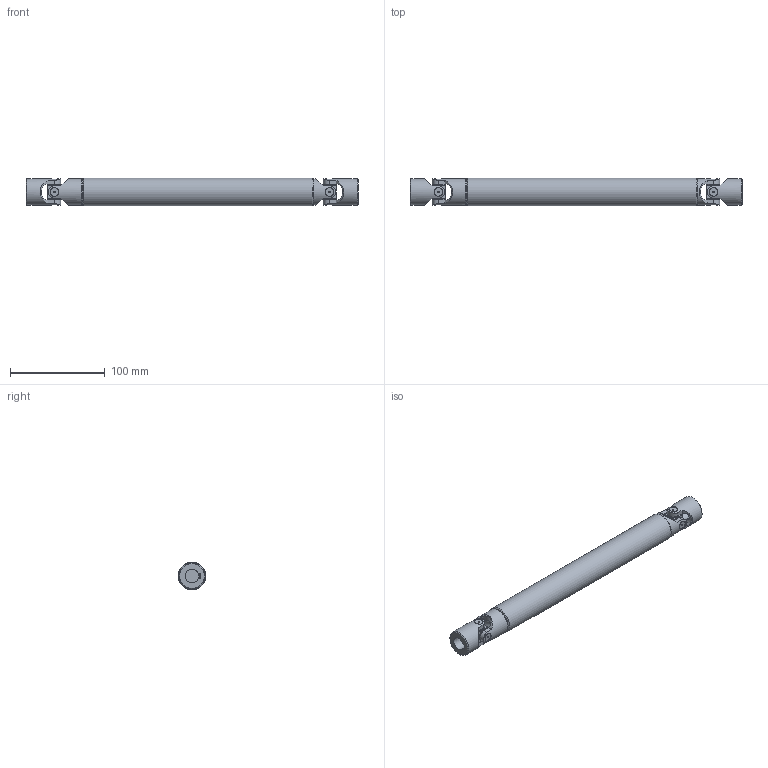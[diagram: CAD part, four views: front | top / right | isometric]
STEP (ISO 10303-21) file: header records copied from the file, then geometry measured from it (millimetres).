
FILE_DESCRIPTION(/* description */ ('EXTENSIBLE TRANSIMISSIONS Series G DIN 808 -2-'),/* implementation_level */ '2;1');
FILE_NAME(/* name */ '\\SRV2016\Societa\Stefano\Disegni 3D\00Catalogo 3D\03Trasmissioni standard GA\!05GA32\!05GA32_SG0A1432.stp',/* time_stamp */ '2022-02-01T10:05:22+01:00',/* author */ ('acquisti'),/* organization */ ('MARIOFERRI'),/* preprocessor_version */ 'ST-DEVELOPER v15.6',/* originating_system */ 'Autodesk Inventor 2015',/* authorisation */ '');
FILE_SCHEMA (('AUTOMOTIVE_DESIGN { 1 0 10303 214 3 1 1 }'));
Length unit declared in the file: millimetre
Products named in the file (5): 05G SFE; !05GA32 LAI; !05GA32 LCI; 05G MOC; !05GA32_SG0A1432
Assembly tree (6 placements, depth 2):
  !05GA32_SG0A1432
    05G SFE  x2
    !05GA32 LAI
    !05GA32 LCI
    05G MOC  x2
Bounding box: 350 x 29.5 x 29.5 mm (x, y, z)
Volume: 153041 mm3; surface area: 72380.1 mm2
Topology: 6 solids, 6 shells, 204 faces, 515 edges, 347 vertices
Faces by surface type: plane 106, cylinder 69, cone 25, torus 4
Full cylindrical faces by diameter (mm): 1.5 x8, 9 x8, 12.5 x8, 14 x1, 14.5 x2, 24 x1, 28 x4, 29.5 x1
Entity records: 5255 total; most frequent: CARTESIAN_POINT 1529, DIRECTION 751, ORIENTED_EDGE 724, EDGE_CURVE 362, AXIS2_PLACEMENT_3D 299, VERTEX_POINT 262, EDGE_LOOP 212, FACE_OUTER_BOUND 158
